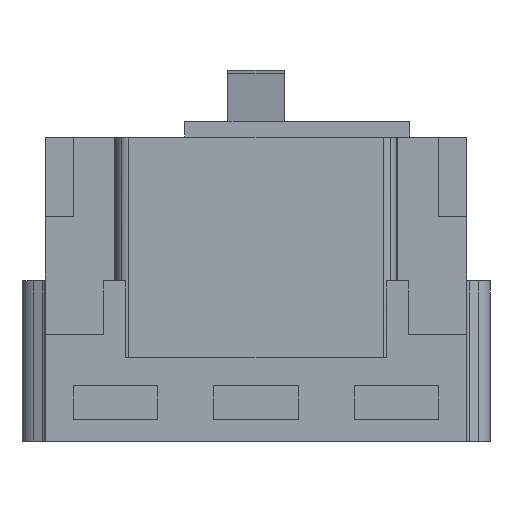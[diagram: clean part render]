
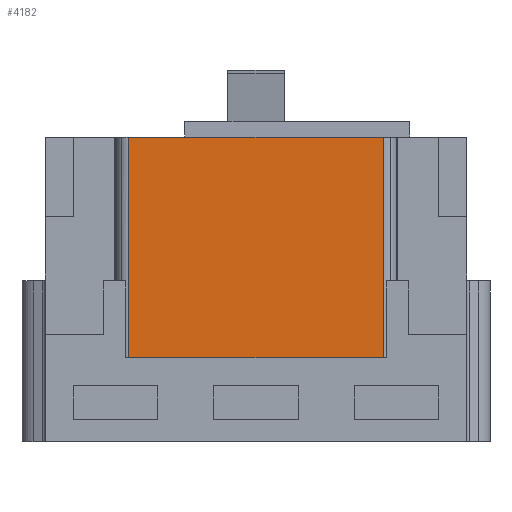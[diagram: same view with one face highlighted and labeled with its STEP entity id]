
A CAD part, front view. The second image highlights one B-rep face of the part: STEP entity #4182.
In plain terms, the highlighted planar face has unit normal (0, -1, 0).
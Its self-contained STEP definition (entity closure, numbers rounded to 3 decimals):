
#160 = ORIENTED_EDGE ( 'NONE', *, *, #3459, .F. ) ;
#359 = EDGE_CURVE ( 'NONE', #5927, #427, #391, .T. ) ;
#391 = LINE ( 'NONE', #3895, #2638 ) ;
#427 = VERTEX_POINT ( 'NONE', #2228 ) ;
#633 = CARTESIAN_POINT ( 'NONE',  ( -180.5, -0.2, -112.493 ) ) ;
#678 = DIRECTION ( 'NONE',  ( 0., 0., 1. ) ) ;
#702 = ORIENTED_EDGE ( 'NONE', *, *, #3533, .T. ) ;
#736 = ORIENTED_EDGE ( 'NONE', *, *, #2656, .F. ) ;
#758 = VECTOR ( 'NONE', #678, 1000. ) ;
#1090 = PLANE ( 'NONE',  #5108 ) ;
#1651 = VECTOR ( 'NONE', #5698, 1000. ) ;
#1659 = VERTEX_POINT ( 'NONE', #4819 ) ;
#2050 = CARTESIAN_POINT ( 'NONE',  ( -44.5, -0.2, -112.493 ) ) ;
#2169 = FACE_OUTER_BOUND ( 'NONE', #3009, .T. ) ;
#2228 = CARTESIAN_POINT ( 'NONE',  ( -180.5, -0.2, 45. ) ) ;
#2253 = LINE ( 'NONE', #633, #5773 ) ;
#2443 = DIRECTION ( 'NONE',  ( 0., 0., 1. ) ) ;
#2638 = VECTOR ( 'NONE', #3876, 1000. ) ;
#2656 = EDGE_CURVE ( 'NONE', #1659, #2915, #3903, .T. ) ;
#2868 = CARTESIAN_POINT ( 'NONE',  ( -44.5, -0.2, -112.493 ) ) ;
#2915 = VERTEX_POINT ( 'NONE', #5454 ) ;
#3009 = EDGE_LOOP ( 'NONE', ( #4721, #702, #736, #160 ) ) ;
#3459 = EDGE_CURVE ( 'NONE', #427, #1659, #2253, .T. ) ;
#3533 = EDGE_CURVE ( 'NONE', #5927, #2915, #4085, .T. ) ;
#3876 = DIRECTION ( 'NONE',  ( -1., 0., 0. ) ) ;
#3895 = CARTESIAN_POINT ( 'NONE',  ( -44.5, -0.2, 45. ) ) ;
#3903 = LINE ( 'NONE', #4747, #1651 ) ;
#4085 = LINE ( 'NONE', #2050, #758 ) ;
#4182 = ADVANCED_FACE ( 'NONE', ( #2169 ), #1090, .F. ) ;
#4721 = ORIENTED_EDGE ( 'NONE', *, *, #359, .F. ) ;
#4747 = CARTESIAN_POINT ( 'NONE',  ( -180.5, -0.2, 162.85 ) ) ;
#4819 = CARTESIAN_POINT ( 'NONE',  ( -180.5, -0.2, 162.85 ) ) ;
#4970 = CARTESIAN_POINT ( 'NONE',  ( -44.5, -0.2, 45. ) ) ;
#5108 = AXIS2_PLACEMENT_3D ( 'NONE', #2868, #5182, #2443 ) ;
#5182 = DIRECTION ( 'NONE',  ( 0., 1., 0. ) ) ;
#5454 = CARTESIAN_POINT ( 'NONE',  ( -44.5, -0.2, 162.85 ) ) ;
#5648 = DIRECTION ( 'NONE',  ( 0., 0., 1. ) ) ;
#5698 = DIRECTION ( 'NONE',  ( 1., 0., 0. ) ) ;
#5773 = VECTOR ( 'NONE', #5648, 1000. ) ;
#5927 = VERTEX_POINT ( 'NONE', #4970 ) ;
